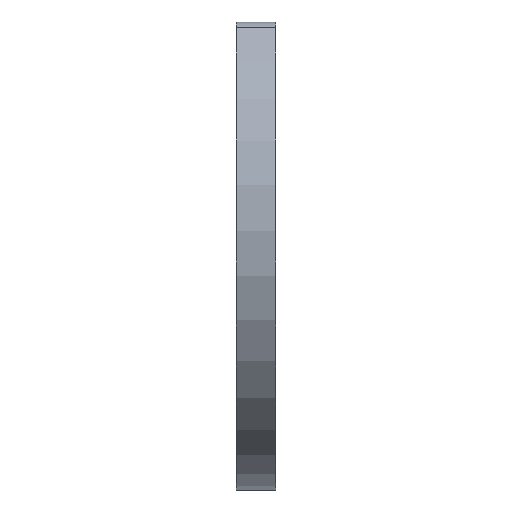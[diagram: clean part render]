
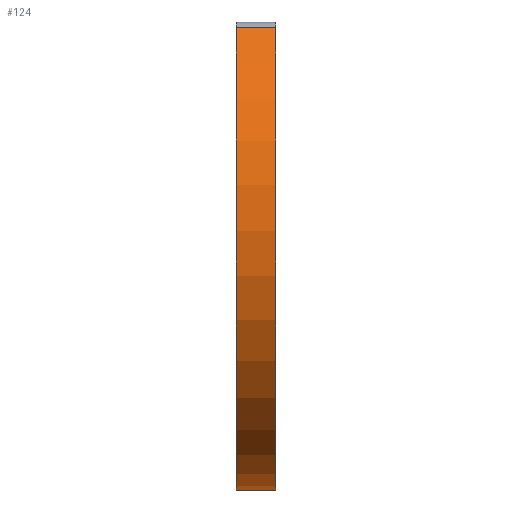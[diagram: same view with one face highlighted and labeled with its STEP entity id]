
A CAD part, left-side view. The second image highlights one B-rep face of the part: STEP entity #124.
In plain terms, the highlighted cylindrical face has radius 4.65 mm (diameter 9.3 mm), a partial arc.
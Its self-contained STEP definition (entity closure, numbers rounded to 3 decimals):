
#6 = EDGE_CURVE ( 'NONE', #523, #167, #203, .T. ) ;
#18 = CARTESIAN_POINT ( 'NONE',  ( 0., 0.35, -4.65 ) ) ;
#37 = CIRCLE ( 'NONE', #586, 4.65 ) ;
#56 = ORIENTED_EDGE ( 'NONE', *, *, #319, .T. ) ;
#63 = EDGE_CURVE ( 'NONE', #523, #345, #179, .T. ) ;
#89 = DIRECTION ( 'NONE',  ( 0., 0., -1. ) ) ;
#124 = ADVANCED_FACE ( 'NONE', ( #811 ), #584, .T. ) ;
#151 = DIRECTION ( 'NONE',  ( 0., -1., 0. ) ) ;
#158 = ORIENTED_EDGE ( 'NONE', *, *, #6, .T. ) ;
#167 = VERTEX_POINT ( 'NONE', #433 ) ;
#179 = CIRCLE ( 'NONE', #676, 4.65 ) ;
#203 = LINE ( 'NONE', #18, #514 ) ;
#220 = DIRECTION ( 'NONE',  ( 0., 0., 1. ) ) ;
#238 = VERTEX_POINT ( 'NONE', #718 ) ;
#241 = DIRECTION ( 'NONE',  ( 0., 1., 0. ) ) ;
#251 = EDGE_LOOP ( 'NONE', ( #692, #158, #56, #862 ) ) ;
#301 = CARTESIAN_POINT ( 'NONE',  ( 0., 0.35, 0. ) ) ;
#319 = EDGE_CURVE ( 'NONE', #167, #238, #37, .T. ) ;
#345 = VERTEX_POINT ( 'NONE', #816 ) ;
#390 = VECTOR ( 'NONE', #241, 1000. ) ;
#420 = EDGE_CURVE ( 'NONE', #238, #345, #578, .T. ) ;
#433 = CARTESIAN_POINT ( 'NONE',  ( 0., -0.35, -4.65 ) ) ;
#447 = DIRECTION ( 'NONE',  ( 0., -1., 0. ) ) ;
#457 = CARTESIAN_POINT ( 'NONE',  ( -3.112, 0.35, 3.455 ) ) ;
#511 = DIRECTION ( 'NONE',  ( 0., 1., 0. ) ) ;
#514 = VECTOR ( 'NONE', #151, 1000. ) ;
#523 = VERTEX_POINT ( 'NONE', #820 ) ;
#526 = CARTESIAN_POINT ( 'NONE',  ( 0., -0.35, 0. ) ) ;
#578 = LINE ( 'NONE', #457, #390 ) ;
#584 = CYLINDRICAL_SURFACE ( 'NONE', #765, 4.65 ) ;
#586 = AXIS2_PLACEMENT_3D ( 'NONE', #526, #657, #220 ) ;
#650 = CARTESIAN_POINT ( 'NONE',  ( 0., 0.35, 0. ) ) ;
#657 = DIRECTION ( 'NONE',  ( 0., 1., 0. ) ) ;
#676 = AXIS2_PLACEMENT_3D ( 'NONE', #301, #511, #732 ) ;
#692 = ORIENTED_EDGE ( 'NONE', *, *, #63, .F. ) ;
#718 = CARTESIAN_POINT ( 'NONE',  ( -3.112, -0.35, 3.455 ) ) ;
#732 = DIRECTION ( 'NONE',  ( 0., 0., 1. ) ) ;
#765 = AXIS2_PLACEMENT_3D ( 'NONE', #650, #447, #89 ) ;
#811 = FACE_OUTER_BOUND ( 'NONE', #251, .T. ) ;
#816 = CARTESIAN_POINT ( 'NONE',  ( -3.112, 0.35, 3.455 ) ) ;
#820 = CARTESIAN_POINT ( 'NONE',  ( 0., 0.35, -4.65 ) ) ;
#862 = ORIENTED_EDGE ( 'NONE', *, *, #420, .T. ) ;
